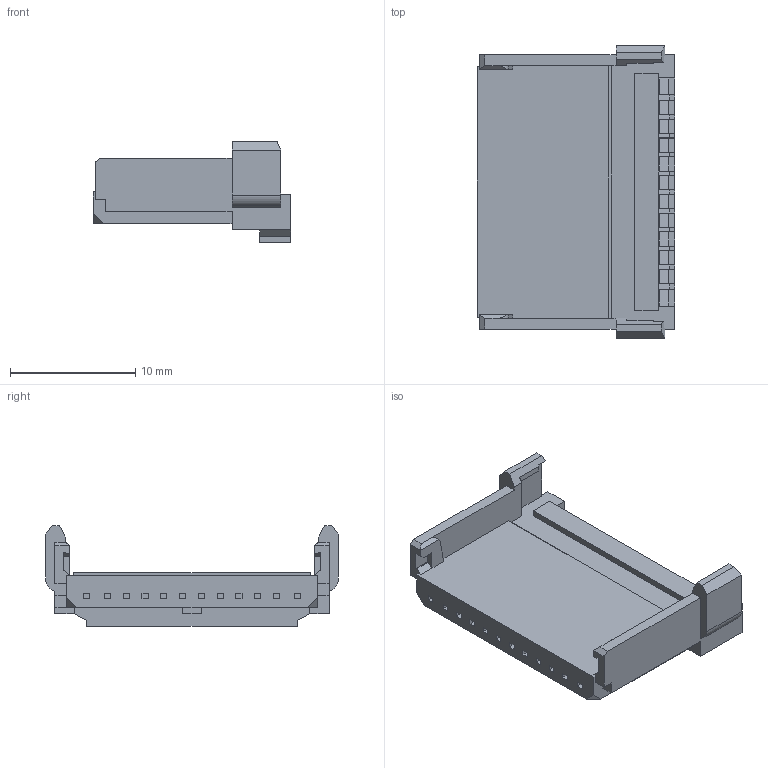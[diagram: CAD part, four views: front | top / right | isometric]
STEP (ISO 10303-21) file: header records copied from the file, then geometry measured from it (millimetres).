
FILE_DESCRIPTION(('CATIA V5 STEP','CAx-IF Rec.Pracs.--- Model Styling and Organization---1.5--- 2016-08-15','CAx-IF Rec.Pracs.---Supplemental Geometry---1.0---2011-11-01','CAx-IF Rec.Pracs.--- Composite Materials ---1.1---2010-07-15'),'2;1');
FILE_NAME('C:\Users\0120140016\Desktop\カタログ3D\24WAY\6099-0062(HE020-24F-L-B).stp','2024-09-25T03:26:42+00:00',('none'),('none'),'CATIA Version 5-6 Release 2022 SP2 HF23','CATIA V5 STEP AP214 v2','none');
FILE_SCHEMA(('AUTOMOTIVE_DESIGN { 1 0 10303 214 1 1 1 1 }'));
Length unit declared in the file: millimetre
Products named in the file (1): 24F_lower_HSG
Bounding box: 15.8 x 23.4 x 8.07 mm (x, y, z)
Volume: 939.3 mm3; surface area: 1324.2 mm2
Topology: 1 solids, 1 shells, 264 faces, 748 edges, 498 vertices
Faces by surface type: plane 260, cylinder 4
Entity records: 7782 total; most frequent: ORIENTED_EDGE 1496, CARTESIAN_POINT 1400, DIRECTION 1024, EDGE_CURVE 748, VECTOR 734, LINE 734, VERTEX_POINT 498, EDGE_LOOP 276
